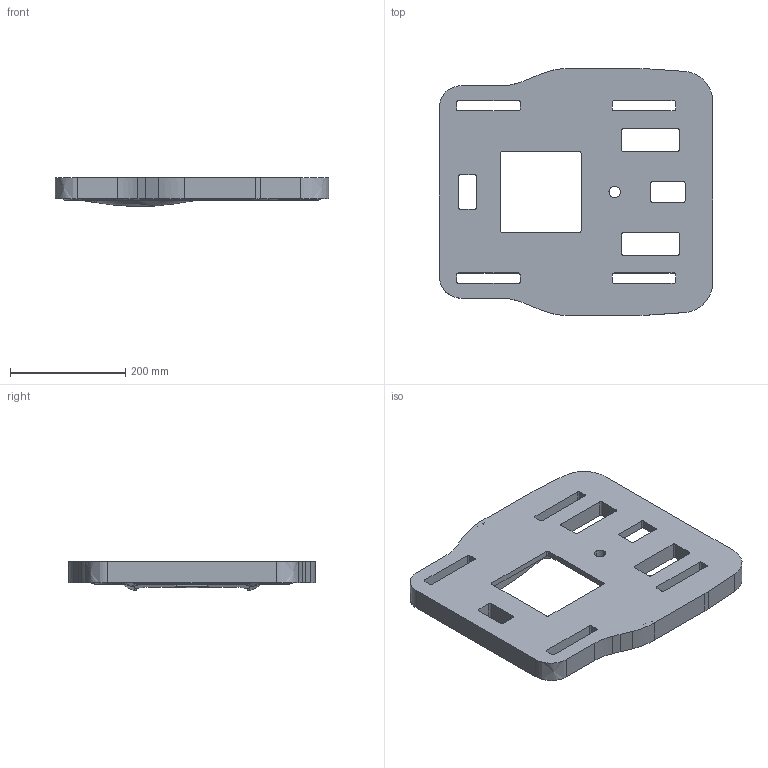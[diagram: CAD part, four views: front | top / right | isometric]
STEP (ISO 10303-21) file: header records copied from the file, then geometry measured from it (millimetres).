
FILE_DESCRIPTION(('CATIA V5 STEP Exchange'),'2;1');
FILE_NAME('D:\Gao Bingchuan\02-重卡\2.0平台\03-座盆\05-新开发座盆 降低H点_20241122\CNC\座盆-基座 CNC_20250516.stp','2025-05-16T05:19:44+00:00',('none'),('none'),'CATIA Version 5 Release 20 SP 7 (IN-10)','CATIA V5 STEP AP203 Edition 2','none');
FILE_SCHEMA(('AP203_CONFIGURATION_CONTROLLED_3D_DESIGN_OF_MECHANICAL_PARTS_AND_ASSEMBLIES_MIM_LF { 1 0 10303 403 2 1 2}'));
Products named in the file (1): SHT0017073_ALL NEW-003 CNC
Bounding box: 474.06 x 428.57 x 50.2 mm (x, y, z)
Volume: 4544228.1 mm3; surface area: 529629.1 mm2
Topology: 1 solids, 1 shells, 586 faces, 1522 edges, 934 vertices
Faces by surface type: bspline 190, cylinder 185, plane 155, extrusion 28, torus 18, cone 10
Entity records: 107636 total; most frequent: CARTESIAN_POINT 95759, ORIENTED_EDGE 3044, EDGE_CURVE 1522, DIRECTION 1393, VERTEX_POINT 934, B_SPLINE_CURVE_WITH_KNOTS 847, EDGE_LOOP 602, ADVANCED_FACE 586
